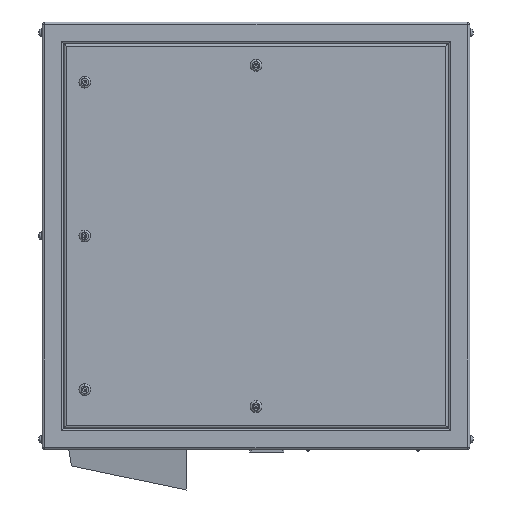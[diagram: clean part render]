
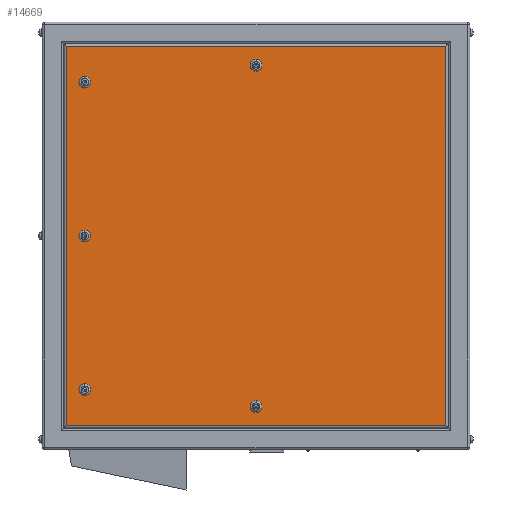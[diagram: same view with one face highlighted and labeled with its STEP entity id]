
A CAD part, left-side view. The second image highlights one B-rep face of the part: STEP entity #14669.
In plain terms, the highlighted planar face has unit normal (-1, 0, 0).
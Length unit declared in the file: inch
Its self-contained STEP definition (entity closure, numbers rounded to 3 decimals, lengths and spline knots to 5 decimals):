
#83 = AXIS2_PLACEMENT_3D ( 'NONE', #20185, #14731, #18301 ) ;
#122 = CARTESIAN_POINT ( 'NONE',  ( -10., 0., 16.5 ) ) ;
#188 = DIRECTION ( 'NONE',  ( 1., 0., 0. ) ) ;
#277 = AXIS2_PLACEMENT_3D ( 'NONE', #3863, #18309, #22181 ) ;
#302 = EDGE_CURVE ( 'NONE', #20581, #14645, #13972, .T. ) ;
#706 = EDGE_CURVE ( 'NONE', #22242, #2707, #3420, .T. ) ;
#1035 = FACE_BOUND ( 'NONE', #15699, .T. ) ;
#1148 = FACE_BOUND ( 'NONE', #21325, .T. ) ;
#1903 = VERTEX_POINT ( 'NONE', #13458 ) ;
#1926 = EDGE_CURVE ( 'NONE', #9368, #22262, #22593, .T. ) ;
#1969 = ORIENTED_EDGE ( 'NONE', *, *, #22566, .T. ) ;
#2235 = DIRECTION ( 'NONE',  ( 0., 0., -1. ) ) ;
#2402 = CARTESIAN_POINT ( 'NONE',  ( -10., 0., 15.4 ) ) ;
#2533 = FACE_BOUND ( 'NONE', #16798, .T. ) ;
#2707 = VERTEX_POINT ( 'NONE', #12928 ) ;
#2855 = CARTESIAN_POINT ( 'NONE',  ( -10., 0., -15.4 ) ) ;
#3133 = DIRECTION ( 'NONE',  ( 0., -1., 0. ) ) ;
#3259 = CARTESIAN_POINT ( 'NONE',  ( -10., 20., -17.74 ) ) ;
#3420 = CIRCLE ( 'NONE', #83, 0.55 ) ;
#3621 = DIRECTION ( 'NONE',  ( 1., 0., 0. ) ) ;
#3622 = ORIENTED_EDGE ( 'NONE', *, *, #7392, .T. ) ;
#3863 = CARTESIAN_POINT ( 'NONE',  ( -10., 16., -14.375 ) ) ;
#3941 = AXIS2_PLACEMENT_3D ( 'NONE', #23209, #16234, #5140 ) ;
#4181 = CIRCLE ( 'NONE', #15910, 0.55 ) ;
#4702 = EDGE_LOOP ( 'NONE', ( #1969, #11342, #9231, #15769 ) ) ;
#4736 = AXIS2_PLACEMENT_3D ( 'NONE', #18447, #5986, #2235 ) ;
#4893 = CARTESIAN_POINT ( 'NONE',  ( -10., 0., -15.95 ) ) ;
#5140 = DIRECTION ( 'NONE',  ( 0., 0., -1. ) ) ;
#5272 = CARTESIAN_POINT ( 'NONE',  ( -10., 16., 13.825 ) ) ;
#5592 = CARTESIAN_POINT ( 'NONE',  ( -10., 16., -0.55 ) ) ;
#5986 = DIRECTION ( 'NONE',  ( 1., 0., 0. ) ) ;
#6152 = DIRECTION ( 'NONE',  ( 0., 1., 0. ) ) ;
#6200 = EDGE_CURVE ( 'NONE', #2707, #22242, #14553, .T. ) ;
#6382 = CARTESIAN_POINT ( 'NONE',  ( -10., -17.74, -20. ) ) ;
#6512 = DIRECTION ( 'NONE',  ( 1., 0., 0. ) ) ;
#6644 = AXIS2_PLACEMENT_3D ( 'NONE', #14630, #14735, #12809 ) ;
#6669 = LINE ( 'NONE', #3259, #14087 ) ;
#7183 = CARTESIAN_POINT ( 'NONE',  ( -10., 16., 14.925 ) ) ;
#7225 = CARTESIAN_POINT ( 'NONE',  ( -10., 16., 0. ) ) ;
#7374 = EDGE_LOOP ( 'NONE', ( #13531, #17874 ) ) ;
#7392 = EDGE_CURVE ( 'NONE', #15712, #20072, #16601, .T. ) ;
#7520 = ORIENTED_EDGE ( 'NONE', *, *, #15390, .T. ) ;
#7595 = AXIS2_PLACEMENT_3D ( 'NONE', #9270, #3621, #14839 ) ;
#7812 = FACE_BOUND ( 'NONE', #11128, .T. ) ;
#8233 = DIRECTION ( 'NONE',  ( 0., 0., -1. ) ) ;
#8549 = VERTEX_POINT ( 'NONE', #5592 ) ;
#8647 = DIRECTION ( 'NONE',  ( 1., 0., 0. ) ) ;
#9231 = ORIENTED_EDGE ( 'NONE', *, *, #22708, .T. ) ;
#9270 = CARTESIAN_POINT ( 'NONE',  ( -10., 0., -15.95 ) ) ;
#9368 = VERTEX_POINT ( 'NONE', #12245 ) ;
#9759 = CARTESIAN_POINT ( 'NONE',  ( -10., -17.74, 17.74 ) ) ;
#9772 = AXIS2_PLACEMENT_3D ( 'NONE', #4893, #8647, #19680 ) ;
#9982 = ORIENTED_EDGE ( 'NONE', *, *, #302, .T. ) ;
#10001 = LINE ( 'NONE', #19159, #14472 ) ;
#10155 = DIRECTION ( 'NONE',  ( 1., 0., 0. ) ) ;
#10256 = VERTEX_POINT ( 'NONE', #17140 ) ;
#10676 = VECTOR ( 'NONE', #6152, 39.37008 ) ;
#11128 = EDGE_LOOP ( 'NONE', ( #3622, #21223 ) ) ;
#11342 = ORIENTED_EDGE ( 'NONE', *, *, #1926, .T. ) ;
#11446 = FACE_OUTER_BOUND ( 'NONE', #4702, .T. ) ;
#11644 = ORIENTED_EDGE ( 'NONE', *, *, #14436, .T. ) ;
#12245 = CARTESIAN_POINT ( 'NONE',  ( -10., -17.74, -17.74 ) ) ;
#12274 = CARTESIAN_POINT ( 'NONE',  ( -10., 16., -13.825 ) ) ;
#12420 = AXIS2_PLACEMENT_3D ( 'NONE', #20816, #10155, #15502 ) ;
#12809 = DIRECTION ( 'NONE',  ( 0., 0., -1. ) ) ;
#12928 = CARTESIAN_POINT ( 'NONE',  ( -10., 16., -14.925 ) ) ;
#13294 = EDGE_CURVE ( 'NONE', #10256, #8549, #16867, .T. ) ;
#13344 = FACE_BOUND ( 'NONE', #7374, .T. ) ;
#13458 = CARTESIAN_POINT ( 'NONE',  ( -10., 17.74, 17.74 ) ) ;
#13531 = ORIENTED_EDGE ( 'NONE', *, *, #6200, .T. ) ;
#13712 = DIRECTION ( 'NONE',  ( 0., 0., -1. ) ) ;
#13972 = CIRCLE ( 'NONE', #12420, 0.55 ) ;
#14019 = VECTOR ( 'NONE', #22704, 39.37008 ) ;
#14037 = EDGE_CURVE ( 'NONE', #1903, #21933, #10001, .T. ) ;
#14087 = VECTOR ( 'NONE', #3133, 39.37008 ) ;
#14436 = EDGE_CURVE ( 'NONE', #21845, #17071, #21668, .T. ) ;
#14446 = DIRECTION ( 'NONE',  ( 1., 0., 0. ) ) ;
#14472 = VECTOR ( 'NONE', #8233, 39.37008 ) ;
#14553 = CIRCLE ( 'NONE', #277, 0.55 ) ;
#14630 = CARTESIAN_POINT ( 'NONE',  ( -10., 16., 0. ) ) ;
#14645 = VERTEX_POINT ( 'NONE', #2402 ) ;
#14669 = ADVANCED_FACE ( 'NONE', ( #7812, #1035, #13344, #1148, #2533, #11446 ), #17309, .F. ) ;
#14731 = DIRECTION ( 'NONE',  ( 1., 0., 0. ) ) ;
#14735 = DIRECTION ( 'NONE',  ( 1., 0., 0. ) ) ;
#14839 = DIRECTION ( 'NONE',  ( 0., 0., 1. ) ) ;
#15390 = EDGE_CURVE ( 'NONE', #8549, #10256, #4181, .T. ) ;
#15502 = DIRECTION ( 'NONE',  ( 0., 0., -1. ) ) ;
#15514 = CARTESIAN_POINT ( 'NONE',  ( -10., 20., -20. ) ) ;
#15699 = EDGE_LOOP ( 'NONE', ( #19747, #9982 ) ) ;
#15712 = VERTEX_POINT ( 'NONE', #22584 ) ;
#15769 = ORIENTED_EDGE ( 'NONE', *, *, #14037, .T. ) ;
#15910 = AXIS2_PLACEMENT_3D ( 'NONE', #7225, #14446, #21665 ) ;
#16234 = DIRECTION ( 'NONE',  ( 1., 0., 0. ) ) ;
#16330 = CARTESIAN_POINT ( 'NONE',  ( -10., 16., 14.375 ) ) ;
#16424 = EDGE_CURVE ( 'NONE', #20072, #15712, #16740, .T. ) ;
#16601 = CIRCLE ( 'NONE', #9772, 0.55 ) ;
#16740 = CIRCLE ( 'NONE', #7595, 0.55 ) ;
#16798 = EDGE_LOOP ( 'NONE', ( #19896, #11644 ) ) ;
#16867 = CIRCLE ( 'NONE', #6644, 0.55 ) ;
#17071 = VERTEX_POINT ( 'NONE', #5272 ) ;
#17140 = CARTESIAN_POINT ( 'NONE',  ( -10., 16., 0.55 ) ) ;
#17309 = PLANE ( 'NONE',  #23197 ) ;
#17874 = ORIENTED_EDGE ( 'NONE', *, *, #706, .T. ) ;
#18301 = DIRECTION ( 'NONE',  ( 0., 0., -1. ) ) ;
#18309 = DIRECTION ( 'NONE',  ( 1., 0., 0. ) ) ;
#18447 = CARTESIAN_POINT ( 'NONE',  ( -10., 0., 15.95 ) ) ;
#18754 = ORIENTED_EDGE ( 'NONE', *, *, #13294, .T. ) ;
#19159 = CARTESIAN_POINT ( 'NONE',  ( -10., 17.74, -20. ) ) ;
#19489 = CIRCLE ( 'NONE', #20196, 0.55 ) ;
#19680 = DIRECTION ( 'NONE',  ( 0., 0., 1. ) ) ;
#19747 = ORIENTED_EDGE ( 'NONE', *, *, #21892, .T. ) ;
#19896 = ORIENTED_EDGE ( 'NONE', *, *, #21536, .T. ) ;
#20072 = VERTEX_POINT ( 'NONE', #2855 ) ;
#20185 = CARTESIAN_POINT ( 'NONE',  ( -10., 16., -14.375 ) ) ;
#20196 = AXIS2_PLACEMENT_3D ( 'NONE', #16330, #188, #21762 ) ;
#20258 = LINE ( 'NONE', #22371, #10676 ) ;
#20432 = CARTESIAN_POINT ( 'NONE',  ( -10., 17.74, -17.74 ) ) ;
#20581 = VERTEX_POINT ( 'NONE', #122 ) ;
#20816 = CARTESIAN_POINT ( 'NONE',  ( -10., 0., 15.95 ) ) ;
#21223 = ORIENTED_EDGE ( 'NONE', *, *, #16424, .T. ) ;
#21325 = EDGE_LOOP ( 'NONE', ( #7520, #18754 ) ) ;
#21536 = EDGE_CURVE ( 'NONE', #17071, #21845, #19489, .T. ) ;
#21665 = DIRECTION ( 'NONE',  ( 0., 0., -1. ) ) ;
#21668 = CIRCLE ( 'NONE', #3941, 0.55 ) ;
#21762 = DIRECTION ( 'NONE',  ( 0., 0., -1. ) ) ;
#21845 = VERTEX_POINT ( 'NONE', #7183 ) ;
#21892 = EDGE_CURVE ( 'NONE', #14645, #20581, #22089, .T. ) ;
#21933 = VERTEX_POINT ( 'NONE', #20432 ) ;
#22089 = CIRCLE ( 'NONE', #4736, 0.55 ) ;
#22181 = DIRECTION ( 'NONE',  ( 0., 0., -1. ) ) ;
#22242 = VERTEX_POINT ( 'NONE', #12274 ) ;
#22262 = VERTEX_POINT ( 'NONE', #9759 ) ;
#22371 = CARTESIAN_POINT ( 'NONE',  ( -10., 20., 17.74 ) ) ;
#22566 = EDGE_CURVE ( 'NONE', #21933, #9368, #6669, .T. ) ;
#22584 = CARTESIAN_POINT ( 'NONE',  ( -10., 0., -16.5 ) ) ;
#22593 = LINE ( 'NONE', #6382, #14019 ) ;
#22704 = DIRECTION ( 'NONE',  ( 0., 0., 1. ) ) ;
#22708 = EDGE_CURVE ( 'NONE', #22262, #1903, #20258, .T. ) ;
#23197 = AXIS2_PLACEMENT_3D ( 'NONE', #15514, #6512, #13712 ) ;
#23209 = CARTESIAN_POINT ( 'NONE',  ( -10., 16., 14.375 ) ) ;
